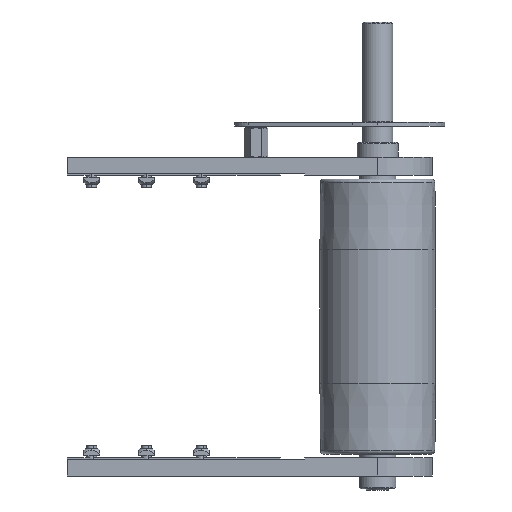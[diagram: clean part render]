
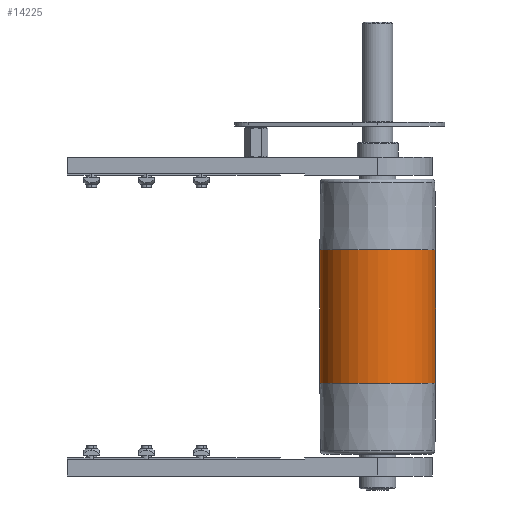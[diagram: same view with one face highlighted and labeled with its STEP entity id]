
A CAD part, front view. The second image highlights one B-rep face of the part: STEP entity #14225.
In plain terms, the highlighted cylindrical face has radius 47.5 mm (diameter 95 mm), a partial arc.
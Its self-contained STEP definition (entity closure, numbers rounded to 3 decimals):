
#1047 = EDGE_LOOP ( 'NONE', ( #6374, #20558, #17461, #6398 ) ) ;
#2039 = VERTEX_POINT ( 'NONE', #16289 ) ;
#4730 = CARTESIAN_POINT ( 'NONE',  ( 110., 0., -47.5 ) ) ;
#4736 = DIRECTION ( 'NONE',  ( -1., 0., 0. ) ) ;
#4737 = CARTESIAN_POINT ( 'NONE',  ( 110., 0., 47.5 ) ) ;
#4738 = DIRECTION ( 'NONE',  ( -1., 0., 0. ) ) ;
#6200 = VERTEX_POINT ( 'NONE', #15516 ) ;
#6213 = VERTEX_POINT ( 'NONE', #15529 ) ;
#6220 = VERTEX_POINT ( 'NONE', #15536 ) ;
#6374 = ORIENTED_EDGE ( 'NONE', *, *, #21079, .F. ) ;
#6398 = ORIENTED_EDGE ( 'NONE', *, *, #19709, .T. ) ;
#6857 = CARTESIAN_POINT ( 'NONE',  ( -55., 0., 0. ) ) ;
#6858 = DIRECTION ( 'NONE',  ( 1., 0., 0. ) ) ;
#6859 = DIRECTION ( 'NONE',  ( 0., 0., -1. ) ) ;
#6863 = CARTESIAN_POINT ( 'NONE',  ( 55., 0., 0. ) ) ;
#6864 = DIRECTION ( 'NONE',  ( 1., 0., 0. ) ) ;
#6865 = DIRECTION ( 'NONE',  ( 0., 0., -1. ) ) ;
#10781 = LINE ( 'NONE', #4730, #10785 ) ;
#10784 = LINE ( 'NONE', #4737, #10787 ) ;
#10785 = VECTOR ( 'NONE', #4736, 1000. ) ;
#10787 = VECTOR ( 'NONE', #4738, 1000. ) ;
#10944 = CIRCLE ( 'NONE', #18807, 47.5 ) ;
#10948 = CIRCLE ( 'NONE', #18803, 47.5 ) ;
#12056 = CYLINDRICAL_SURFACE ( 'NONE', #19348, 47.5 ) ;
#12059 = FACE_OUTER_BOUND ( 'NONE', #1047, .T. ) ;
#14225 = ADVANCED_FACE ( 'NONE', ( #12059 ), #12056, .T. ) ;
#14374 = DIRECTION ( 'NONE',  ( 0., 0., 1. ) ) ;
#14378 = DIRECTION ( 'NONE',  ( -1., 0., 0. ) ) ;
#14379 = CARTESIAN_POINT ( 'NONE',  ( 110., 0., 0. ) ) ;
#15516 = CARTESIAN_POINT ( 'NONE',  ( -55., 0., 47.5 ) ) ;
#15529 = CARTESIAN_POINT ( 'NONE',  ( -55., 0., -47.5 ) ) ;
#15536 = CARTESIAN_POINT ( 'NONE',  ( 55., 0., -47.5 ) ) ;
#16289 = CARTESIAN_POINT ( 'NONE',  ( 55., 0., 47.5 ) ) ;
#17461 = ORIENTED_EDGE ( 'NONE', *, *, #21080, .T. ) ;
#18803 = AXIS2_PLACEMENT_3D ( 'NONE', #6863, #6864, #6865 ) ;
#18807 = AXIS2_PLACEMENT_3D ( 'NONE', #6857, #6858, #6859 ) ;
#19348 = AXIS2_PLACEMENT_3D ( 'NONE', #14379, #14378, #14374 ) ;
#19709 = EDGE_CURVE ( 'NONE', #6200, #6213, #10944, .T. ) ;
#19711 = EDGE_CURVE ( 'NONE', #2039, #6220, #10948, .T. ) ;
#20558 = ORIENTED_EDGE ( 'NONE', *, *, #19711, .F. ) ;
#21079 = EDGE_CURVE ( 'NONE', #6220, #6213, #10781, .T. ) ;
#21080 = EDGE_CURVE ( 'NONE', #2039, #6200, #10784, .T. ) ;
